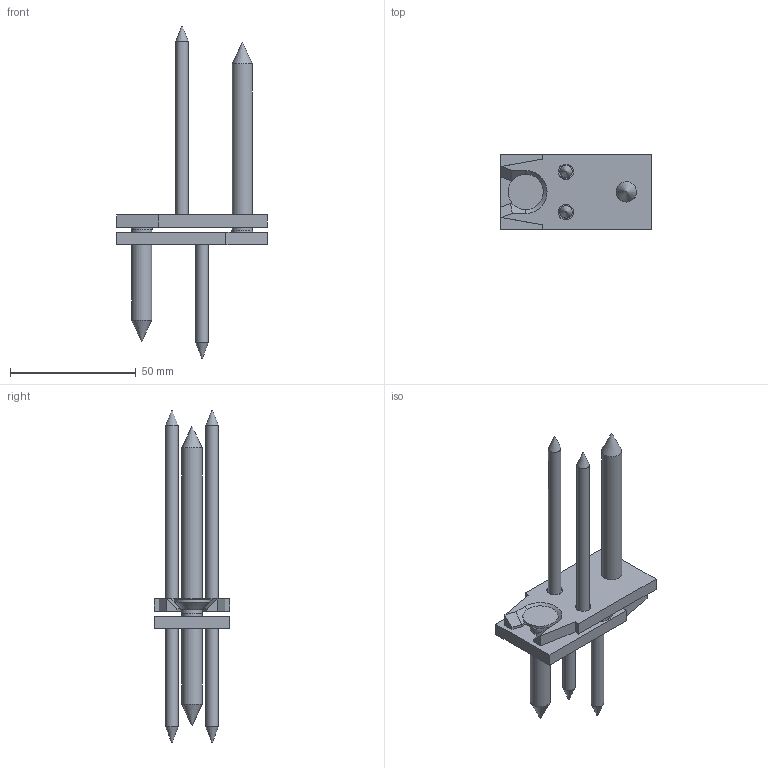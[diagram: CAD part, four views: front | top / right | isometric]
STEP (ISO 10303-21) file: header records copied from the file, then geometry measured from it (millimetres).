
FILE_DESCRIPTION(/* description */ ('Unknown'),/* implementation_level */ '2;1');
FILE_NAME(/* name */ 'RICON Edelstahl_60x30_EA',/* time_stamp */ '2022-02-07T14:40:10+01:00',/* author */ ('Unknown'),/* organization */ ('Unknown'),/* preprocessor_version */ 'ST-DEVELOPER v16.7',/* originating_system */ 'Solid Edge',/* authorisation */ 'Unknown');
FILE_SCHEMA (('AUTOMOTIVE_DESIGN {1 0 10303 214 3 1 1}'));
Length unit declared in the file: millimetre
Products named in the file (6): RICON_30x60_zusammenbau_mit Fase; RICON_30x60_mit Fase; SK_Schraube_5x50; SK_Schraube_8x50; SK_Schraube_5x80; SK_Schraube_8x80
Assembly tree (8 placements, depth 2):
  RICON_30x60_zusammenbau_mit Fase
    RICON_30x60_mit Fase  x2
    SK_Schraube_5x50  x2
    SK_Schraube_8x50
    SK_Schraube_5x80  x2
    SK_Schraube_8x80
Bounding box: 60 x 30 x 131.95 mm (x, y, z)
Volume: 25105.9 mm3; surface area: 16214.9 mm2
Topology: 8 solids, 8 shells, 98 faces, 212 edges, 134 vertices
Faces by surface type: plane 54, cylinder 26, cone 18
Full cylindrical faces by diameter (mm): 5 x4, 6 x4, 6.2 x4, 8 x4, 8.3 x2, 10 x2, 10.2 x2, 14 x2
Entity records: 1506 total; most frequent: DIRECTION 254, CARTESIAN_POINT 222, ORIENTED_EDGE 174, AXIS2_PLACEMENT_3D 102, FACE_BOUND 91, EDGE_LOOP 89, EDGE_CURVE 87, VERTEX_POINT 70
